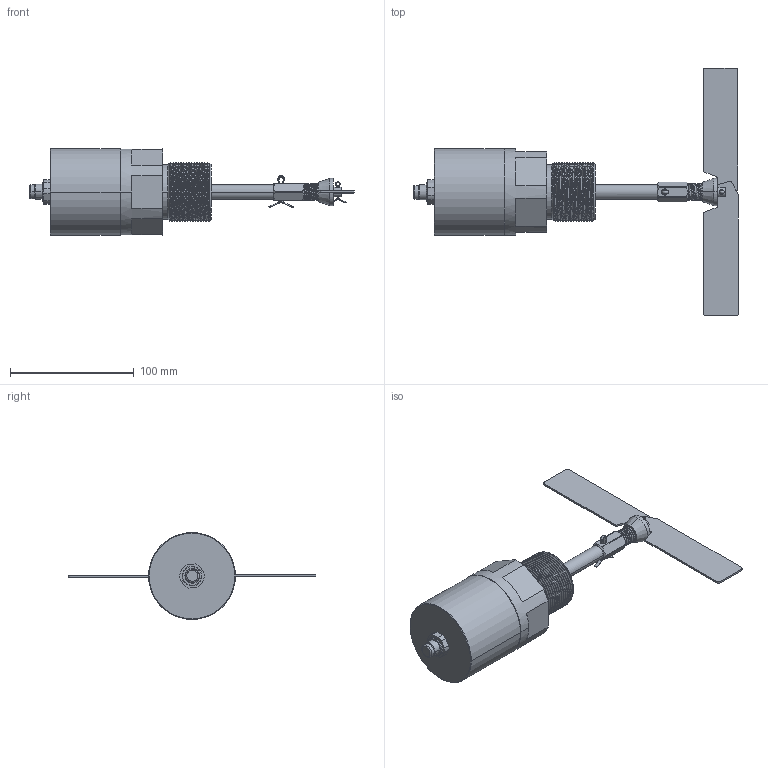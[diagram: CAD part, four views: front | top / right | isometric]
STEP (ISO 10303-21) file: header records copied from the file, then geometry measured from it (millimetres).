
FILE_DESCRIPTION (( 'STEP AP214' ), '1' );
FILE_NAME ('MBA888_24V 謥踙摳.STEP', '2021-02-28T11:42:21', ( '' ), ( '' ), 'SwSTEP 2.0', 'SolidWorks 2020', '' );
FILE_SCHEMA (( 'AUTOMOTIVE_DESIGN' ));
Length unit declared in the file: millimetre
Products named in the file (12): MBA888_24V.STP; Ïðóæèíà; MBA888_24V 謥踙摳; MBA888_24V_P1.STP; MBA888_24V_P4.STP; Ëîïàñòü ñêëàäíàÿ; MBA888_24V_P2.STP; MBA888_24V_P5.STP; Øïèëüêà 2ìì; Øïèëüêà (2); MBA888_24V_P3.STP
Assembly tree (11 placements, depth 3):
  MBA888_24V 謥踙摳
    MBA888_24V.STP
      MBA888_24V_P1.STP
      MBA888_24V_P2.STP
      MBA888_24V_P3.STP
      MBA888_24V_P4.STP
      MBA888_24V_P5.STP
    Ëîïàñòü ñêëàäíàÿ
      Ëîïàñòü ñêëàäíàÿ
      Øïèëüêà 2ìì
      Ïðóæèíà
    Øïèëüêà (2)
Bounding box: 262 x 200 x 70 mm (x, y, z)
Volume: 243430.5 mm3; surface area: 90642.4 mm2
Topology: 9 solids, 9 shells, 418 faces, 1009 edges, 624 vertices
Faces by surface type: cylinder 189, plane 119, torus 52, cone 49, bspline 9
Entity records: 25334 total; most frequent: CARTESIAN_POINT 15100, DIRECTION 2161, ORIENTED_EDGE 2010, EDGE_CURVE 1005, AXIS2_PLACEMENT_3D 873, VERTEX_POINT 624, EDGE_LOOP 455, CIRCLE 448
